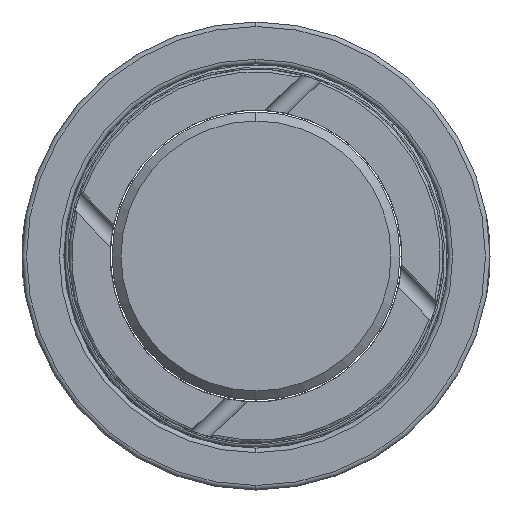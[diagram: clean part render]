
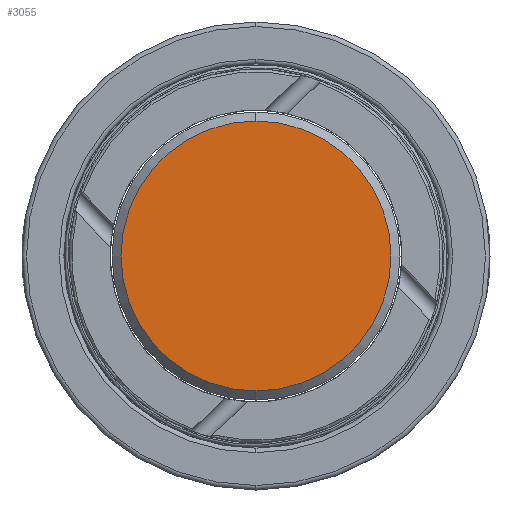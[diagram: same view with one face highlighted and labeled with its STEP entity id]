
A CAD part, left-side view. The second image highlights one B-rep face of the part: STEP entity #3055.
In plain terms, the highlighted planar face has unit normal (-1, 0, 0).
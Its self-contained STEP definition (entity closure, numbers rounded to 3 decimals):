
#265 = DIRECTION ( 'NONE',  ( 1., 0., 0. ) ) ;
#270 = DIRECTION ( 'NONE',  ( 0., 0., -1. ) ) ;
#324 = PLANE ( 'NONE',  #1908 ) ;
#673 = CARTESIAN_POINT ( 'NONE',  ( -43., 0., 0. ) ) ;
#791 = DIRECTION ( 'NONE',  ( 0., 0., -1. ) ) ;
#1245 = EDGE_LOOP ( 'NONE', ( #2262, #4664 ) ) ;
#1562 = AXIS2_PLACEMENT_3D ( 'NONE', #673, #3576, #6063 ) ;
#1692 = CIRCLE ( 'NONE', #5111, 15. ) ;
#1908 = AXIS2_PLACEMENT_3D ( 'NONE', #3632, #265, #791 ) ;
#2064 = VERTEX_POINT ( 'NONE', #4317 ) ;
#2262 = ORIENTED_EDGE ( 'NONE', *, *, #4280, .T. ) ;
#3055 = ADVANCED_FACE ( 'NONE', ( #3989 ), #324, .F. ) ;
#3576 = DIRECTION ( 'NONE',  ( -1., 0., 0. ) ) ;
#3632 = CARTESIAN_POINT ( 'NONE',  ( -43., 0., 0. ) ) ;
#3981 = VERTEX_POINT ( 'NONE', #6119 ) ;
#3989 = FACE_OUTER_BOUND ( 'NONE', #1245, .T. ) ;
#4280 = EDGE_CURVE ( 'NONE', #2064, #3981, #5669, .T. ) ;
#4317 = CARTESIAN_POINT ( 'NONE',  ( -43., 0., -15. ) ) ;
#4664 = ORIENTED_EDGE ( 'NONE', *, *, #5840, .T. ) ;
#5111 = AXIS2_PLACEMENT_3D ( 'NONE', #5138, #6168, #270 ) ;
#5138 = CARTESIAN_POINT ( 'NONE',  ( -43., 0., 0. ) ) ;
#5669 = CIRCLE ( 'NONE', #1562, 15. ) ;
#5840 = EDGE_CURVE ( 'NONE', #3981, #2064, #1692, .T. ) ;
#6063 = DIRECTION ( 'NONE',  ( 0., 0., -1. ) ) ;
#6119 = CARTESIAN_POINT ( 'NONE',  ( -43., 0., 15. ) ) ;
#6168 = DIRECTION ( 'NONE',  ( -1., 0., 0. ) ) ;
